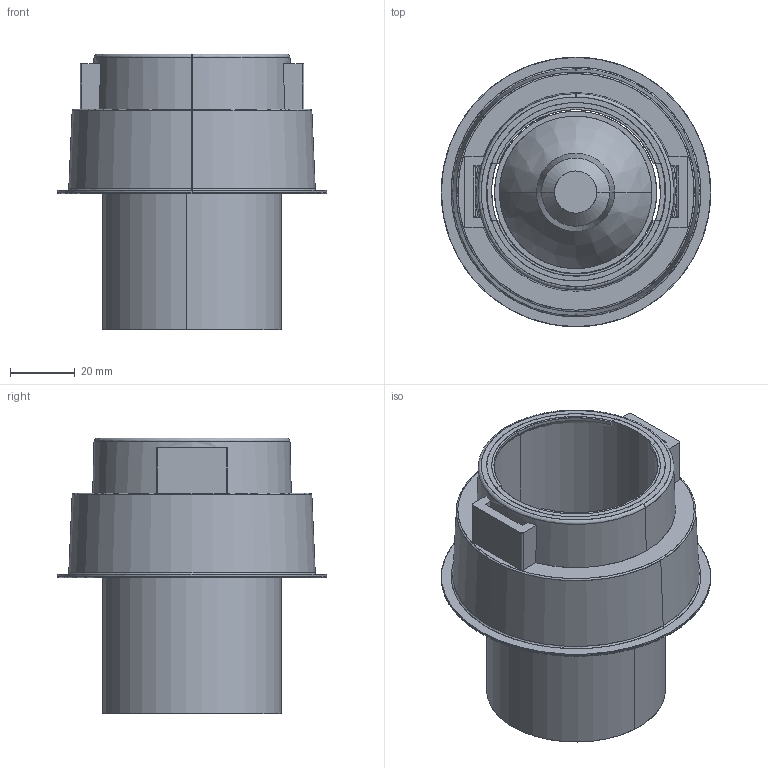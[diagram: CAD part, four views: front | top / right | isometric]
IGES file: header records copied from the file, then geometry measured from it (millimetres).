
Start section: SolidWorks IGES file using analytic representation for surfaces
Global section: file name: C:\Users\anna.bielnik\Desktop\modele 3D tymczasowe\MONO-SLIDE\monoo.IGS; native system: SolidWorks 2023; preprocessor: SolidWorks 2023; author: anna.bielnik; date: 230705.123830; units: millimetre
Bounding box: 83 x 83 x 85 mm (x, y, z)
Surface area: 60807.2 mm2 (no closed solid volume)
Topology: 0 solids, 0 shells, 108 faces, 1746 edges, 1746 vertices
Faces by surface type: bspline 61, revolution 47
